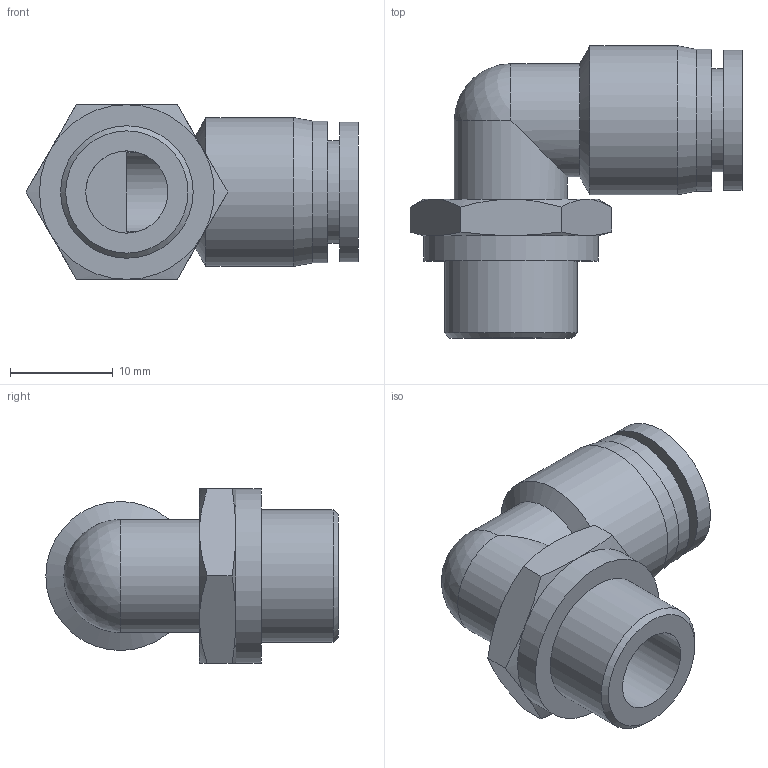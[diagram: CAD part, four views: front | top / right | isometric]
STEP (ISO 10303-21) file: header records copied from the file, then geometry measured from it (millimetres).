
FILE_DESCRIPTION((''),'2;1');
FILE_NAME('S:\UTecnico\ArchivioUT\Speciali Clienti\Speciali KONFIT\Plastica\RP\RP 72\RP721408.stp','2012-05-15T13:31:47',('UT5'),(''),'Autodesk Inventor 2012','Autodesk Inventor 2012','');
FILE_SCHEMA(('AUTOMOTIVE_DESIGN { 1 0 10303 214 1 1 1 1 }'));
Length unit declared in the file: millimetre
Products named in the file (1): RP721408
Bounding box: 32.31 x 28.45 x 17 mm (x, y, z)
Volume: 3989.4 mm3; surface area: 3493.6 mm2
Topology: 1 solids, 1 shells, 41 faces, 88 edges, 53 vertices
Faces by surface type: cone 15, plane 14, cylinder 11, sphere 1
Full cylindrical faces by diameter (mm): 8 x2, 10 x1, 11 x2, 12.9 x1, 13.6 x1, 13.8 x1, 14.5 x1, 17 x1
Entity records: 1000 total; most frequent: CARTESIAN_POINT 206, DIRECTION 163, ORIENTED_EDGE 138, AXIS2_PLACEMENT_3D 77, EDGE_CURVE 69, EDGE_LOOP 59, VERTEX_POINT 48, FACE_OUTER_BOUND 40
